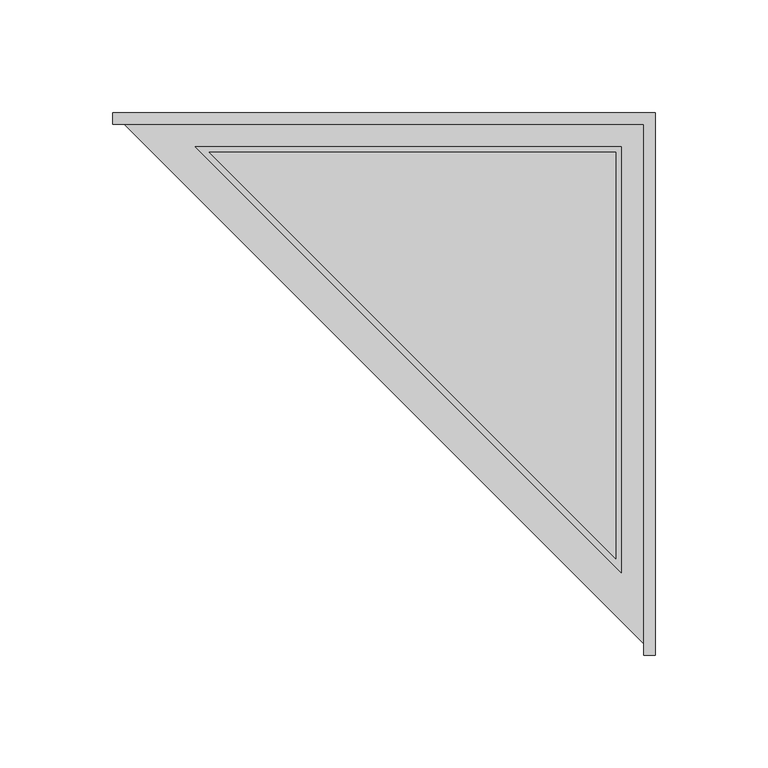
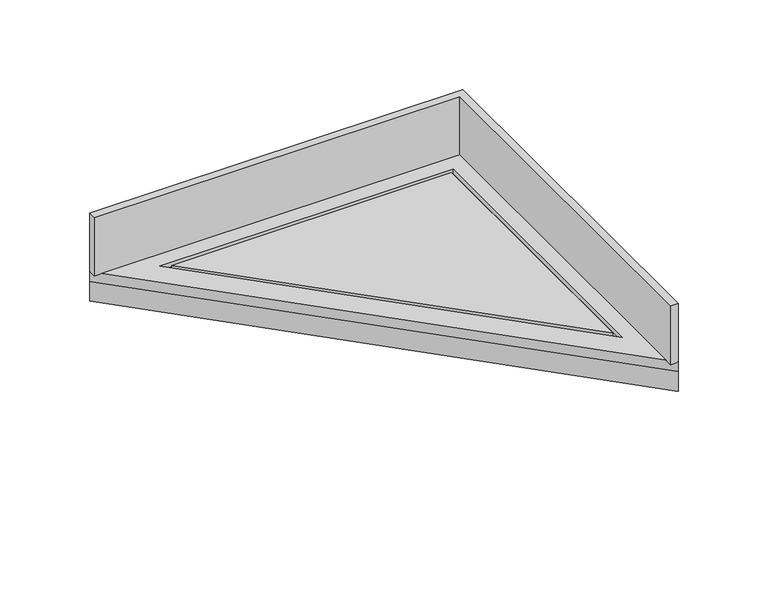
"""IFC4 building model written with IfcOpenShell, lengths in millimetres: sanitary terminal geometry, NLRS_PF_52_UN_Aqua Jewels Delta_in_uitloop_Easydrain : Aqua Jewels Delta zijuitloop hoog 50mm, zij-ingang 40mm."""

from ifc_helpers import new_model, si_unit, frame, origin, place, context, project, spatial, polyline, outline, extrude, faceted_brep, source, transform, mapped, element, save


def sanitary_terminal_dddee02a(model_context):
    return source(origin(), model_context, "Body", "SolidModel", [
        faceted_brep([(64.0, 64.0, -11.5), (64.0, -176.4163056, -11.5), (-176.4163056, 64.0, -11.5), (64.0, 64.0, -5.0), (-176.4163056, 64.0, -5.0), (64.0, -176.4163056, -5.0), (49.0, 49.0, -5.0), (49.0, -139.7867966, -5.0), (-139.7867966, 49.0, -5.0), (46.5, -133.7512627, -5.0), (46.5, 46.5, -5.0), (-133.7512627, 46.5, -5.0), (49.0, 49.0, -8.0), (49.0, -139.7867966, -8.0), (46.5, -133.7512627, -8.0), (46.5, 46.5, -8.0), (-139.7867966, 49.0, -8.0), (-133.7512627, 46.5, -8.0)], [[[0, 1, 2]], [[3, 4, 5], [6, 7, 8]], [[9, 10, 11]], [[0, 2, 4, 3]], [[2, 1, 5, 4]], [[1, 0, 3, 5]], [[12, 13, 7, 6]], [[9, 14, 15, 10]], [[7, 13, 16, 8]], [[14, 9, 11, 17]], [[12, 6, 8, 16]], [[13, 12, 16], [15, 14, 17]], [[10, 15, 17, 11]]]),
        extrude(outline(polyline([(64.0, 64.0), (64.0, -176.4163056), (-176.4163056, 64.0), (64.0, 64.0)])), frame((0.0, 0.0, -25.0), z_axis=(0.0, 0.0, 1.0), x_axis=(1.0, 0.0, 0.0)), (0.0, 0.0, 1.0), 13.5),
        extrude(outline(polyline([(64.0, -176.4163056), (59.0, -176.4163056), (59.0, 59.0), (-176.4163056, 59.0), (-176.4163056, 64.0), (64.0, 64.0), (64.0, -176.4163056)])), frame((0.0, 0.0, -5.0), z_axis=(0.0, 0.0, 1.0), x_axis=(1.0, 0.0, 0.0)), (0.0, 0.0, 1.0), 40.0),
    ])


if __name__ == "__main__":
    model = new_model("IFC4")
    model_context = context("Model", 3, world=origin())
    ifc_project = project(units=[si_unit("LENGTHUNIT", "METRE", prefix="MILLI")], contexts=[model_context])
    site = spatial("IfcSite", under=ifc_project)
    building = spatial("IfcBuilding", under=site)
    placement = place(None, origin())
    sanitary_terminal_shape = sanitary_terminal_dddee02a(model_context)
    element("IfcSanitaryTerminal", 1, ObjectType="NLRS_PF_52_UN_Aqua Jewels Delta_in_uitloop_Easydrain : Aqua Jewels Delta zijuitloop hoog 50mm, zij-ingang 40mm", at=placement, inside=building, context=model_context, shape_type="MappedRepresentation", body=[
        mapped(sanitary_terminal_shape, transform((0.0, 0.0, 0.0), x_axis=(1.0, 0.0, 0.0), y_axis=(0.0, 1.0, 0.0), z_axis=(0.0, 0.0, 1.0))),
    ])
    save(model, "model.ifc")
